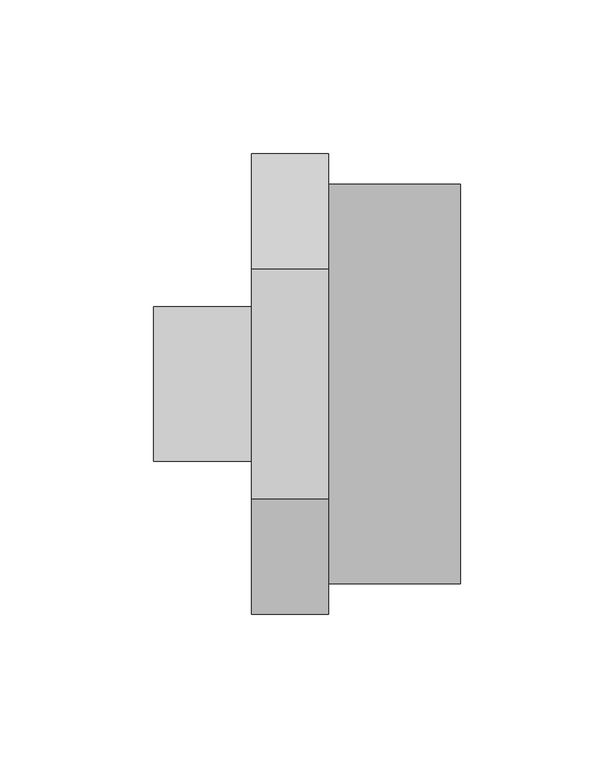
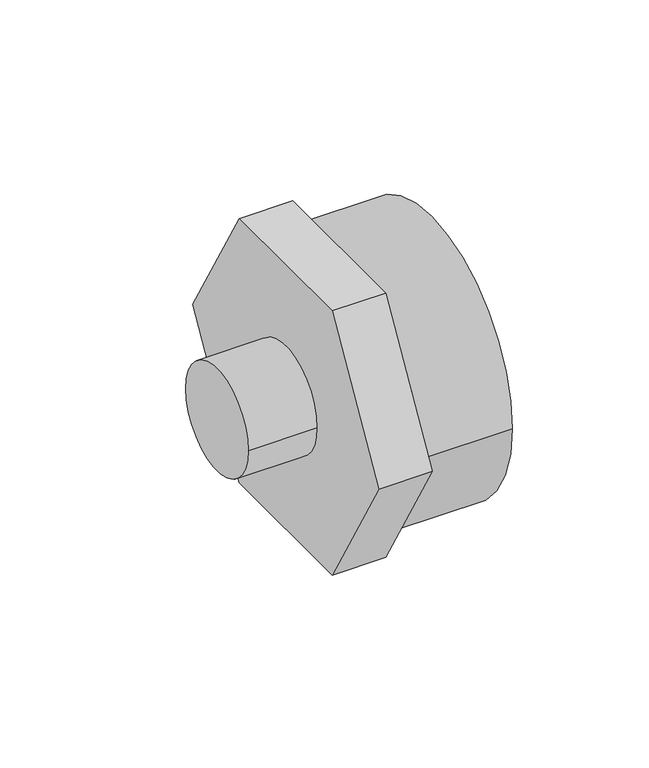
"""IFC4 building model written with IfcOpenShell, lengths in millimetres: pipe fitting geometry, 01011006 : Uniões de redução M/F."""

from ifc_helpers import new_model, si_unit, point, frame, origin, origin_2d, place, context, project, spatial, polyline, circle_curve, trimmed, segment, composite_curve, outline, extrude, source, transform, mapped, element, save


def pipe_fitting_25dcc393(model_context):
    return source(origin(), model_context, "Body", "SweptSolid", [
        extrude(outline(composite_curve([segment(trimmed(circle_curve(origin_2d(), 25.2), [point((25.2, 0.0))], [point((-25.2, 0.0))], False, "CARTESIAN"), True, "CONTINUOUS"), segment(trimmed(circle_curve(origin_2d(), 25.2), [point((-25.2, 0.0))], [point((25.2, 0.0))], False, "CARTESIAN"), True, "CONTINUOUS")], self_intersect=False)), frame((0.0, 0.0, 0.0), z_axis=(1.0, 0.0, 0.0), x_axis=(0.0, 1.0, 0.0)), (0.0, 0.0, 1.0), 32.0),
        extrude(outline(polyline([(-37.5277675, 65.0), (37.5277675, 65.0), (75.055535, 0.0), (37.5277675, -65.0), (-37.5277675, -65.0), (-75.055535, 0.0), (-37.5277675, 65.0)])), frame((32.0, 0.0, 0.0), z_axis=(1.0, 0.0, 0.0), x_axis=(0.0, 1.0, 0.0)), (0.0, 0.0, 1.0), 25.0),
        extrude(outline(composite_curve([segment(trimmed(circle_curve(origin_2d(), 65.0), [point((-65.0, 0.0))], [point((65.0, 0.0))], False, "CARTESIAN"), True, "CONTINUOUS"), segment(trimmed(circle_curve(origin_2d(), 65.0), [point((65.0, 0.0))], [point((-65.0, 0.0))], False, "CARTESIAN"), True, "CONTINUOUS")], self_intersect=False)), frame((57.0, 0.0, 0.0), z_axis=(1.0, 0.0, 0.0), x_axis=(0.0, 1.0, 0.0)), (0.0, 0.0, 1.0), 43.0),
    ])


if __name__ == "__main__":
    model = new_model("IFC4")
    model_context = context("Model", 3, world=origin())
    ifc_project = project(units=[si_unit("LENGTHUNIT", "METRE", prefix="MILLI")], contexts=[model_context])
    site = spatial("IfcSite", under=ifc_project)
    building = spatial("IfcBuilding", under=site)
    placement = place(None, origin())
    pipe_fitting_shape = pipe_fitting_25dcc393(model_context)
    element("IfcPipeFitting", 1, ObjectType="01011006 : Uniões de redução M/F", at=placement, inside=building, context=model_context, shape_type="MappedRepresentation", body=[
        mapped(pipe_fitting_shape, transform((0.0, 0.0, 0.0), x_axis=(1.0, 0.0, 0.0), y_axis=(0.0, 1.0, 0.0), z_axis=(0.0, 0.0, 1.0))),
    ])
    save(model, "model.ifc")
